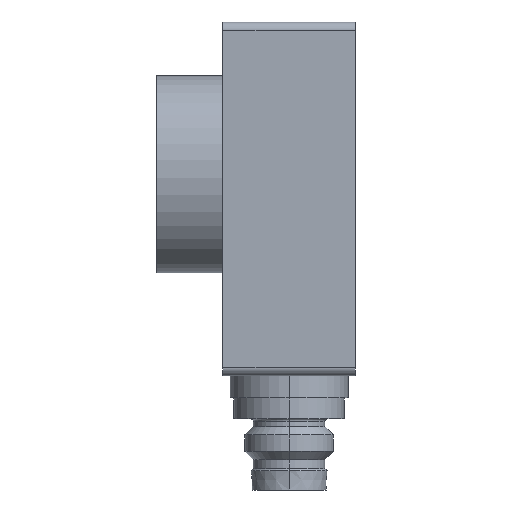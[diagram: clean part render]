
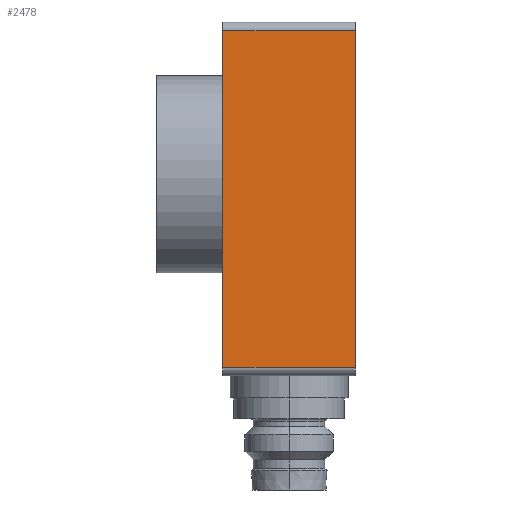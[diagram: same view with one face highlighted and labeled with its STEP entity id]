
A CAD part, left-side view. The second image highlights one B-rep face of the part: STEP entity #2478.
In plain terms, the highlighted planar face has unit normal (-1, 0, 0).
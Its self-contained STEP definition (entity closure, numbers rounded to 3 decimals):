
#21 = ORIENTED_EDGE ( 'NONE', *, *, #656, .T. ) ;
#92 = CARTESIAN_POINT ( 'NONE',  ( -10.7, -6., 0.8 ) ) ;
#290 = VECTOR ( 'NONE', #2303, 1000. ) ;
#656 = EDGE_CURVE ( 'NONE', #2230, #4721, #4522, .T. ) ;
#794 = VECTOR ( 'NONE', #1868, 1000. ) ;
#926 = DIRECTION ( 'NONE',  ( 0., 0., 1. ) ) ;
#1215 = ORIENTED_EDGE ( 'NONE', *, *, #2937, .T. ) ;
#1409 = FACE_OUTER_BOUND ( 'NONE', #5878, .T. ) ;
#1439 = PLANE ( 'NONE',  #2808 ) ;
#1457 = CARTESIAN_POINT ( 'NONE',  ( -10.7, -6., 0.8 ) ) ;
#1868 = DIRECTION ( 'NONE',  ( 0., 1., 0. ) ) ;
#2001 = CARTESIAN_POINT ( 'NONE',  ( -10.7, 0., 31.3 ) ) ;
#2115 = LINE ( 'NONE', #6239, #3444 ) ;
#2196 = VERTEX_POINT ( 'NONE', #5949 ) ;
#2230 = VERTEX_POINT ( 'NONE', #2404 ) ;
#2301 = CARTESIAN_POINT ( 'NONE',  ( -10.7, 6., 0.8 ) ) ;
#2303 = DIRECTION ( 'NONE',  ( 0., 1., 0. ) ) ;
#2404 = CARTESIAN_POINT ( 'NONE',  ( -10.7, -6., 31.3 ) ) ;
#2478 = ADVANCED_FACE ( 'NONE', ( #1409 ), #1439, .T. ) ;
#2559 = DIRECTION ( 'NONE',  ( -1., 0., 0. ) ) ;
#2705 = ORIENTED_EDGE ( 'NONE', *, *, #5403, .F. ) ;
#2808 = AXIS2_PLACEMENT_3D ( 'NONE', #2001, #2559, #926 ) ;
#2937 = EDGE_CURVE ( 'NONE', #2196, #2230, #6693, .T. ) ;
#3240 = LINE ( 'NONE', #92, #290 ) ;
#3444 = VECTOR ( 'NONE', #4231, 1000. ) ;
#3716 = CARTESIAN_POINT ( 'NONE',  ( -10.7, 6., 31.3 ) ) ;
#4231 = DIRECTION ( 'NONE',  ( 0., 0., -1. ) ) ;
#4465 = DIRECTION ( 'NONE',  ( 0., 0., 1. ) ) ;
#4522 = LINE ( 'NONE', #4942, #794 ) ;
#4721 = VERTEX_POINT ( 'NONE', #3716 ) ;
#4912 = EDGE_CURVE ( 'NONE', #4721, #5992, #2115, .T. ) ;
#4942 = CARTESIAN_POINT ( 'NONE',  ( -10.7, -6., 31.3 ) ) ;
#5277 = ORIENTED_EDGE ( 'NONE', *, *, #4912, .T. ) ;
#5403 = EDGE_CURVE ( 'NONE', #2196, #5992, #3240, .T. ) ;
#5878 = EDGE_LOOP ( 'NONE', ( #5277, #2705, #1215, #21 ) ) ;
#5949 = CARTESIAN_POINT ( 'NONE',  ( -10.7, -6., 0.8 ) ) ;
#5992 = VERTEX_POINT ( 'NONE', #2301 ) ;
#6239 = CARTESIAN_POINT ( 'NONE',  ( -10.7, 6., 31.3 ) ) ;
#6520 = VECTOR ( 'NONE', #4465, 1000. ) ;
#6693 = LINE ( 'NONE', #1457, #6520 ) ;
